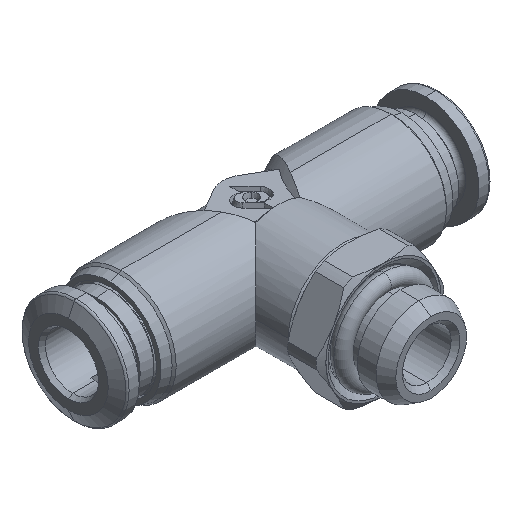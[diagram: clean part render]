
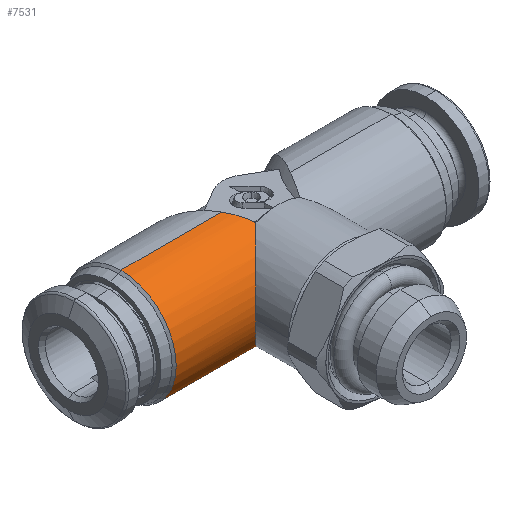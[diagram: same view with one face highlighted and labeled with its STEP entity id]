
A CAD part, isometric view. The second image highlights one B-rep face of the part: STEP entity #7531.
In plain terms, the highlighted cylindrical face has radius 6.25 mm (diameter 12.5 mm), a partial arc.
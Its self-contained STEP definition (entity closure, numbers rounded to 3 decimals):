
#184 = CARTESIAN_POINT ( 'NONE',  ( -2.467, -2.467, 5.742 ) ) ;
#212 = CARTESIAN_POINT ( 'NONE',  ( -2.482, -2.442, 5.753 ) ) ;
#230 = ORIENTED_EDGE ( 'NONE', *, *, #9575, .F. ) ;
#312 = EDGE_CURVE ( 'NONE', #3017, #6841, #5907, .T. ) ;
#525 = AXIS2_PLACEMENT_3D ( 'NONE', #9577, #9517, #8083 ) ;
#647 = EDGE_CURVE ( 'NONE', #1504, #6648, #4667, .T. ) ;
#849 = LINE ( 'NONE', #2801, #4733 ) ;
#927 = CARTESIAN_POINT ( 'NONE',  ( -2.496, -2.417, 5.764 ) ) ;
#958 = CARTESIAN_POINT ( 'NONE',  ( -2.511, -2.392, 5.774 ) ) ;
#1052 = EDGE_CURVE ( 'NONE', #9029, #1852, #849, .T. ) ;
#1138 = CARTESIAN_POINT ( 'NONE',  ( -3.892, 0., 6.25 ) ) ;
#1504 = VERTEX_POINT ( 'NONE', #7258 ) ;
#1530 = CARTESIAN_POINT ( 'NONE',  ( -2.467, -2.467, -5.742 ) ) ;
#1560 = CARTESIAN_POINT ( 'NONE',  ( -4.833, -4.833, -4.726 ) ) ;
#1623 = CARTESIAN_POINT ( 'NONE',  ( -3.419, -0.818, 6.21 ) ) ;
#1650 = ORIENTED_EDGE ( 'NONE', *, *, #1850, .F. ) ;
#1729 = ORIENTED_EDGE ( 'NONE', *, *, #6569, .T. ) ;
#1797 = CARTESIAN_POINT ( 'NONE',  ( -2.956, -1.621, 6.05 ) ) ;
#1850 = EDGE_CURVE ( 'NONE', #7261, #9403, #9591, .T. ) ;
#1852 = VERTEX_POINT ( 'NONE', #7713 ) ;
#1900 = CARTESIAN_POINT ( 'NONE',  ( -6.25, -6.25, 0. ) ) ;
#1944 = CARTESIAN_POINT ( 'NONE',  ( -6.25, -6.25, 0. ) ) ;
#1994 = CARTESIAN_POINT ( 'NONE',  ( -2.729, -2.014, 5.931 ) ) ;
#2008 = CARTESIAN_POINT ( 'NONE',  ( -3.892, 0., 6.25 ) ) ;
#2015 = CARTESIAN_POINT ( 'NONE',  ( -6.25, -6.25, 0. ) ) ;
#2024 = CARTESIAN_POINT ( 'NONE',  ( -2.511, -2.392, 5.774 ) ) ;
#2028 = CARTESIAN_POINT ( 'NONE',  ( -6.25, -6.25, -2.575 ) ) ;
#2029 = VECTOR ( 'NONE', #4371, 1000. ) ;
#2132 = FACE_OUTER_BOUND ( 'NONE', #8094, .T. ) ;
#2187 = CARTESIAN_POINT ( 'NONE',  ( -6.25, -6.25, 2.575 ) ) ;
#2717 = CARTESIAN_POINT ( 'NONE',  ( -3.655, -0.409, 6.25 ) ) ;
#2745 = DIRECTION ( 'NONE',  ( -1., 0., 0. ) ) ;
#2784 = CARTESIAN_POINT ( 'NONE',  ( -15.268, 0., 6.25 ) ) ;
#2801 = CARTESIAN_POINT ( 'NONE',  ( -17.5, 0., -6.25 ) ) ;
#3017 = VERTEX_POINT ( 'NONE', #2008 ) ;
#3090 = ORIENTED_EDGE ( 'NONE', *, *, #6076, .T. ) ;
#3177 = CYLINDRICAL_SURFACE ( 'NONE', #525, 6.25 ) ;
#3859 = CARTESIAN_POINT ( 'NONE',  ( -2.467, -2.467, 5.742 ) ) ;
#3909 = CARTESIAN_POINT ( 'NONE',  ( -4.833, -4.833, 4.726 ) ) ;
#4371 = DIRECTION ( 'NONE',  ( -1., 0., 0. ) ) ;
#4667 =( BOUNDED_CURVE ( )  B_SPLINE_CURVE ( 3, ( #3859, #3909, #2187, #2015 ),
 .UNSPECIFIED., .F., .F. ) 
 B_SPLINE_CURVE_WITH_KNOTS ( ( 4, 4 ),
 ( 5.118, 6.283 ),
 .UNSPECIFIED. ) 
 CURVE ( )  GEOMETRIC_REPRESENTATION_ITEM ( )  RATIONAL_B_SPLINE_CURVE ( ( 1., 0.89, 0.89, 1. ) ) 
 REPRESENTATION_ITEM ( '' )  );
#4733 = VECTOR ( 'NONE', #2745, 1000. ) ;
#4734 = CARTESIAN_POINT ( 'NONE',  ( -17.5, 0., 6.25 ) ) ;
#4758 = CARTESIAN_POINT ( 'NONE',  ( -3.89, -0.003, -6.25 ) ) ;
#4769 = VERTEX_POINT ( 'NONE', #9057 ) ;
#4997 = DIRECTION ( 'NONE',  ( 0., 0., -1. ) ) ;
#5038 = DIRECTION ( 'NONE',  ( 1., 0., 0. ) ) ;
#5072 = CARTESIAN_POINT ( 'NONE',  ( -15.268, 0., 0. ) ) ;
#5113 = CARTESIAN_POINT ( 'NONE',  ( -3.654, -0.411, -6.25 ) ) ;
#5153 = CARTESIAN_POINT ( 'NONE',  ( -3.419, -0.819, -6.209 ) ) ;
#5268 = CARTESIAN_POINT ( 'NONE',  ( -3.892, 0., -6.25 ) ) ;
#5272 = CARTESIAN_POINT ( 'NONE',  ( -3.891, -0.001, -6.25 ) ) ;
#5301 = ORIENTED_EDGE ( 'NONE', *, *, #5901, .F. ) ;
#5311 = CARTESIAN_POINT ( 'NONE',  ( -3.89, -0.002, -6.25 ) ) ;
#5374 = CARTESIAN_POINT ( 'NONE',  ( -3.89, -0.003, -6.25 ) ) ;
#5527 = CARTESIAN_POINT ( 'NONE',  ( -2.956, -1.621, -6.05 ) ) ;
#5901 = EDGE_CURVE ( 'NONE', #4769, #7261, #8209, .T. ) ;
#5907 = LINE ( 'NONE', #4734, #2029 ) ;
#6076 = EDGE_CURVE ( 'NONE', #6841, #1852, #6983, .T. ) ;
#6099 = CARTESIAN_POINT ( 'NONE',  ( -2.467, -2.467, -5.742 ) ) ;
#6386 = EDGE_CURVE ( 'NONE', #6648, #4769, #9663, .T. ) ;
#6395 = CARTESIAN_POINT ( 'NONE',  ( -2.511, -2.392, -5.774 ) ) ;
#6504 = CARTESIAN_POINT ( 'NONE',  ( -3.89, -0.003, -6.25 ) ) ;
#6569 = EDGE_CURVE ( 'NONE', #1504, #8363, #7086, .T. ) ;
#6648 = VERTEX_POINT ( 'NONE', #1944 ) ;
#6782 = EDGE_CURVE ( 'NONE', #3017, #8363, #6800, .T. ) ;
#6800 = B_SPLINE_CURVE_WITH_KNOTS ( 'NONE', 3,
 ( #1138, #2717, #1623, #1797, #1994, #2024 ),
 .UNSPECIFIED., .F., .F.,
 ( 4, 2, 4 ),
 ( 0., 0.5, 1. ),
 .UNSPECIFIED. ) ;
#6841 = VERTEX_POINT ( 'NONE', #2784 ) ;
#6868 = CARTESIAN_POINT ( 'NONE',  ( -2.511, -2.392, -5.774 ) ) ;
#6983 = CIRCLE ( 'NONE', #8989, 6.25 ) ;
#7086 =( BOUNDED_CURVE ( )  B_SPLINE_CURVE ( 3, ( #184, #212, #927, #958 ),
 .UNSPECIFIED., .F., .F. ) 
 B_SPLINE_CURVE_WITH_KNOTS ( ( 4, 4 ),
 ( 4.307, 4.32 ),
 .UNSPECIFIED. ) 
 CURVE ( )  GEOMETRIC_REPRESENTATION_ITEM ( )  RATIONAL_B_SPLINE_CURVE ( ( 1., 1., 1., 1. ) ) 
 REPRESENTATION_ITEM ( '' )  );
#7258 = CARTESIAN_POINT ( 'NONE',  ( -2.467, -2.467, 5.742 ) ) ;
#7261 = VERTEX_POINT ( 'NONE', #6868 ) ;
#7405 = CARTESIAN_POINT ( 'NONE',  ( -3.892, 0., -6.25 ) ) ;
#7531 = ADVANCED_FACE ( 'NONE', ( #2132 ), #3177, .T. ) ;
#7586 = CARTESIAN_POINT ( 'NONE',  ( -2.496, -2.417, -5.764 ) ) ;
#7713 = CARTESIAN_POINT ( 'NONE',  ( -15.268, 0., -6.25 ) ) ;
#7719 = CARTESIAN_POINT ( 'NONE',  ( -2.482, -2.442, -5.753 ) ) ;
#7780 = ORIENTED_EDGE ( 'NONE', *, *, #647, .F. ) ;
#8083 = DIRECTION ( 'NONE',  ( 0., 0., 1. ) ) ;
#8094 = EDGE_LOOP ( 'NONE', ( #9567, #230, #1650, #5301, #8430, #7780, #1729, #8797, #8946, #3090 ) ) ;
#8209 = B_SPLINE_CURVE_WITH_KNOTS ( 'NONE', 3,
 ( #6099, #7719, #7586, #9203 ),
 .UNSPECIFIED., .F., .F.,
 ( 4, 4 ),
 ( 0.008, 0.008 ),
 .UNSPECIFIED. ) ;
#8363 = VERTEX_POINT ( 'NONE', #9108 ) ;
#8430 = ORIENTED_EDGE ( 'NONE', *, *, #6386, .F. ) ;
#8797 = ORIENTED_EDGE ( 'NONE', *, *, #6782, .F. ) ;
#8946 = ORIENTED_EDGE ( 'NONE', *, *, #312, .T. ) ;
#8989 = AXIS2_PLACEMENT_3D ( 'NONE', #5072, #5038, #4997 ) ;
#9029 = VERTEX_POINT ( 'NONE', #7405 ) ;
#9057 = CARTESIAN_POINT ( 'NONE',  ( -2.467, -2.467, -5.742 ) ) ;
#9108 = CARTESIAN_POINT ( 'NONE',  ( -2.511, -2.392, 5.774 ) ) ;
#9161 = B_SPLINE_CURVE_WITH_KNOTS ( 'NONE', 3,
 ( #5374, #5311, #5272, #5268 ),
 .UNSPECIFIED., .F., .F.,
 ( 4, 4 ),
 ( 0., 0.003 ),
 .UNSPECIFIED. ) ;
#9203 = CARTESIAN_POINT ( 'NONE',  ( -2.511, -2.392, -5.774 ) ) ;
#9403 = VERTEX_POINT ( 'NONE', #6504 ) ;
#9517 = DIRECTION ( 'NONE',  ( -1., 0., 0. ) ) ;
#9567 = ORIENTED_EDGE ( 'NONE', *, *, #1052, .F. ) ;
#9575 = EDGE_CURVE ( 'NONE', #9403, #9029, #9161, .T. ) ;
#9577 = CARTESIAN_POINT ( 'NONE',  ( -17.5, 0., 0. ) ) ;
#9580 = CARTESIAN_POINT ( 'NONE',  ( -2.729, -2.014, -5.931 ) ) ;
#9591 = B_SPLINE_CURVE_WITH_KNOTS ( 'NONE', 3,
 ( #6395, #9580, #5527, #5153, #5113, #4758 ),
 .UNSPECIFIED., .F., .F.,
 ( 4, 2, 4 ),
 ( 0., 0.501, 1. ),
 .UNSPECIFIED. ) ;
#9663 =( BOUNDED_CURVE ( )  B_SPLINE_CURVE ( 3, ( #1900, #2028, #1560, #1530 ),
 .UNSPECIFIED., .F., .T. ) 
 B_SPLINE_CURVE_WITH_KNOTS ( ( 4, 4 ),
 ( 0., 1.165 ),
 .UNSPECIFIED. ) 
 CURVE ( )  GEOMETRIC_REPRESENTATION_ITEM ( )  RATIONAL_B_SPLINE_CURVE ( ( 1., 0.89, 0.89, 1. ) ) 
 REPRESENTATION_ITEM ( '' )  );
